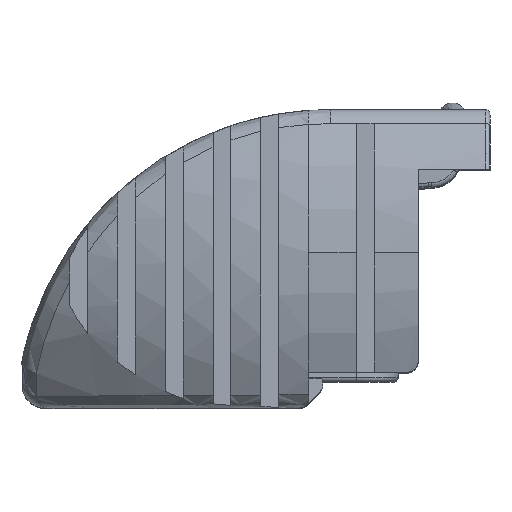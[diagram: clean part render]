
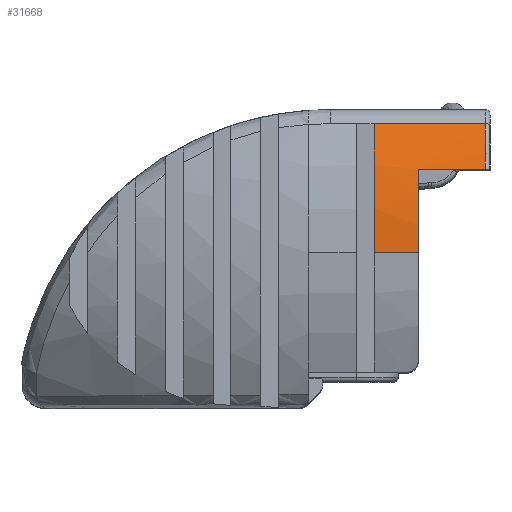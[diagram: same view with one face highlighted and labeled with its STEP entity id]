
A CAD part, top view. The second image highlights one B-rep face of the part: STEP entity #31668.
In plain terms, the highlighted cylindrical face has radius 26.4 mm (diameter 52.8 mm), a partial arc.
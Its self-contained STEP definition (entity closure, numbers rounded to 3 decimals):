
#1780 = EDGE_CURVE ( 'NONE', #60997, #60979, #8171, .T. ) ;
#1784 = EDGE_CURVE ( 'NONE', #5335, #60997, #8173, .T. ) ;
#1787 = EDGE_CURVE ( 'NONE', #5227, #51507, #8176, .T. ) ;
#1852 = EDGE_CURVE ( 'NONE', #60979, #51498, #8245, .T. ) ;
#2127 = EDGE_CURVE ( 'NONE', #5335, #5227, #8536, .T. ) ;
#2421 = DIRECTION ( 'NONE',  ( 0., 0., -1. ) ) ;
#2422 = CARTESIAN_POINT ( 'NONE',  ( -24.081, 23.82, 15.2 ) ) ;
#2574 = DIRECTION ( 'NONE',  ( 1., 0., 0. ) ) ;
#2575 = CARTESIAN_POINT ( 'NONE',  ( 0., 13., 14.8 ) ) ;
#2578 = CARTESIAN_POINT ( 'NONE',  ( 0., 13., 9.2 ) ) ;
#2579 = DIRECTION ( 'NONE',  ( 0., 0., 1. ) ) ;
#2604 = DIRECTION ( 'NONE',  ( 0., 0., -1. ) ) ;
#2608 = DIRECTION ( 'NONE',  ( 1., 0., 0. ) ) ;
#3859 = CARTESIAN_POINT ( 'NONE',  ( -24.081, 23.82, 14.8 ) ) ;
#3870 = CARTESIAN_POINT ( 'NONE',  ( -24.081, 23.82, 5.5 ) ) ;
#4896 = EDGE_CURVE ( 'NONE', #51507, #51498, #58967, .T. ) ;
#5227 = VERTEX_POINT ( 'NONE', #26414 ) ;
#5335 = VERTEX_POINT ( 'NONE', #26430 ) ;
#6205 = ORIENTED_EDGE ( 'NONE', *, *, #4896, .F. ) ;
#6221 = ORIENTED_EDGE ( 'NONE', *, *, #1852, .T. ) ;
#6222 = ORIENTED_EDGE ( 'NONE', *, *, #1780, .T. ) ;
#6223 = ORIENTED_EDGE ( 'NONE', *, *, #1784, .T. ) ;
#6224 = ORIENTED_EDGE ( 'NONE', *, *, #2127, .F. ) ;
#6225 = ORIENTED_EDGE ( 'NONE', *, *, #1787, .F. ) ;
#6840 = CARTESIAN_POINT ( 'NONE',  ( -26.4, 13., 5.5 ) ) ;
#6844 = CARTESIAN_POINT ( 'NONE',  ( -26.4, 13., 9.2 ) ) ;
#8007 = EDGE_LOOP ( 'NONE', ( #6205, #6225, #6224, #6223, #6222, #6221 ) ) ;
#8167 = VECTOR ( 'NONE', #2421, 1000. ) ;
#8171 = LINE ( 'NONE', #2422, #8167 ) ;
#8173 = CIRCLE ( 'NONE', #10735, 26.4 ) ;
#8176 = CIRCLE ( 'NONE', #10736, 26.4 ) ;
#8245 = CIRCLE ( 'NONE', #10728, 26.4 ) ;
#8536 = LINE ( 'NONE', #41092, #8538 ) ;
#8538 = VECTOR ( 'NONE', #41055, 1000. ) ;
#10728 = AXIS2_PLACEMENT_3D ( 'NONE', #31004, #30880, #30815 ) ;
#10735 = AXIS2_PLACEMENT_3D ( 'NONE', #2575, #2604, #2608 ) ;
#10736 = AXIS2_PLACEMENT_3D ( 'NONE', #2578, #2579, #2574 ) ;
#25912 = CARTESIAN_POINT ( 'NONE',  ( -26.4, 13., 15.2 ) ) ;
#25920 = DIRECTION ( 'NONE',  ( 0., 0., -1. ) ) ;
#26414 = CARTESIAN_POINT ( 'NONE',  ( -25.455, 20., 9.2 ) ) ;
#26430 = CARTESIAN_POINT ( 'NONE',  ( -25.455, 20., 14.8 ) ) ;
#27147 = DIRECTION ( 'NONE',  ( -1., 0., 0. ) ) ;
#27151 = DIRECTION ( 'NONE',  ( 0., 0., -1. ) ) ;
#27152 = CARTESIAN_POINT ( 'NONE',  ( 0., 13., 15.2 ) ) ;
#30815 = DIRECTION ( 'NONE',  ( 1., 0., 0. ) ) ;
#30880 = DIRECTION ( 'NONE',  ( 0., 0., 1. ) ) ;
#31004 = CARTESIAN_POINT ( 'NONE',  ( 0., 13., 5.5 ) ) ;
#31668 = ADVANCED_FACE ( 'NONE', ( #59801 ), #59805, .T. ) ;
#41055 = DIRECTION ( 'NONE',  ( 0., 0., -1. ) ) ;
#41092 = CARTESIAN_POINT ( 'NONE',  ( -25.455, 20., 15.2 ) ) ;
#45594 = AXIS2_PLACEMENT_3D ( 'NONE', #27152, #27151, #27147 ) ;
#51498 = VERTEX_POINT ( 'NONE', #6840 ) ;
#51507 = VERTEX_POINT ( 'NONE', #6844 ) ;
#58967 = LINE ( 'NONE', #25912, #58968 ) ;
#58968 = VECTOR ( 'NONE', #25920, 1000. ) ;
#59801 = FACE_OUTER_BOUND ( 'NONE', #8007, .T. ) ;
#59805 = CYLINDRICAL_SURFACE ( 'NONE', #45594, 26.4 ) ;
#60979 = VERTEX_POINT ( 'NONE', #3870 ) ;
#60997 = VERTEX_POINT ( 'NONE', #3859 ) ;
